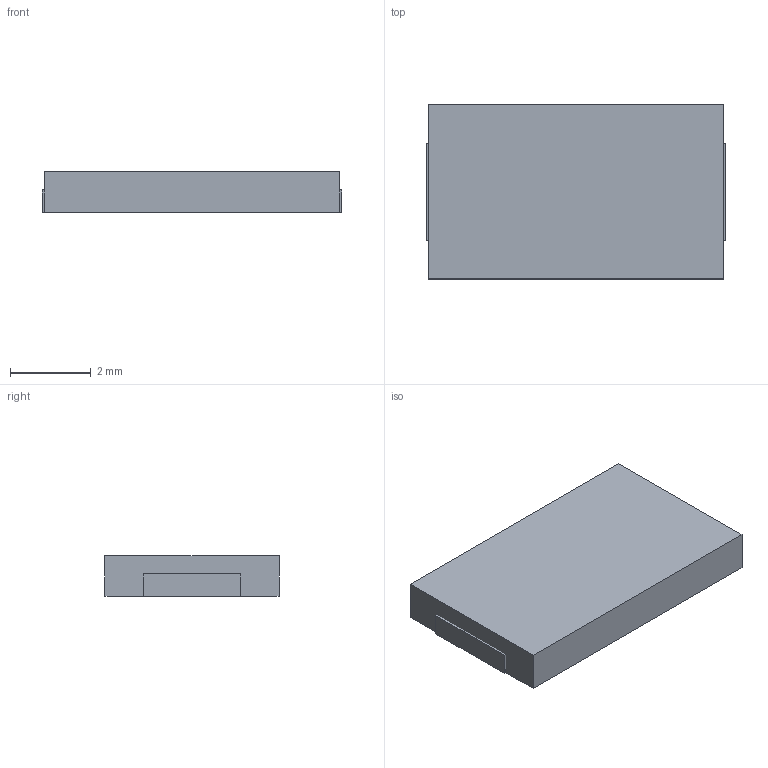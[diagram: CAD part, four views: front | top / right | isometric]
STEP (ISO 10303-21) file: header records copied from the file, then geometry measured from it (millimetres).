
FILE_DESCRIPTION(/* description */ (''),/* implementation_level */ '2;1');
FILE_NAME(/* name */ 'Y:\01.SP-Cap\4.機械系ＣＡＤ図\4.3DCAD\\X2\88FD54C156F3\X0\\営業依頼分\1.SPC\SR1.0.stp',/* time_stamp */ '2016-05-19T14:03:35+09:00',/* author */ ('4024630'),/* organization */ (''),/* preprocessor_version */ 'ST-DEVELOPER v15.6',/* originating_system */ 'Autodesk Inventor 2015',/* authorisation */ '');
FILE_SCHEMA (('AUTOMOTIVE_DESIGN { 1 0 10303 214 3 1 1 }'));
Length unit declared in the file: millimetre
Products named in the file (4): SS1.0; 端子1(0.55); 端子2(0.55); SR1.0
Bounding box: 7.4 x 4.3 x 1 mm (x, y, z)
Volume: 31.6 mm3; surface area: 104.7 mm2
Topology: 3 solids, 3 shells, 30 faces, 72 edges, 48 vertices
Faces by surface type: plane 30
Entity records: 949 total; most frequent: CARTESIAN_POINT 157, DIRECTION 146, ORIENTED_EDGE 144, LINE 72, VECTOR 72, EDGE_CURVE 72, VERTEX_POINT 48, AXIS2_PLACEMENT_3D 37
